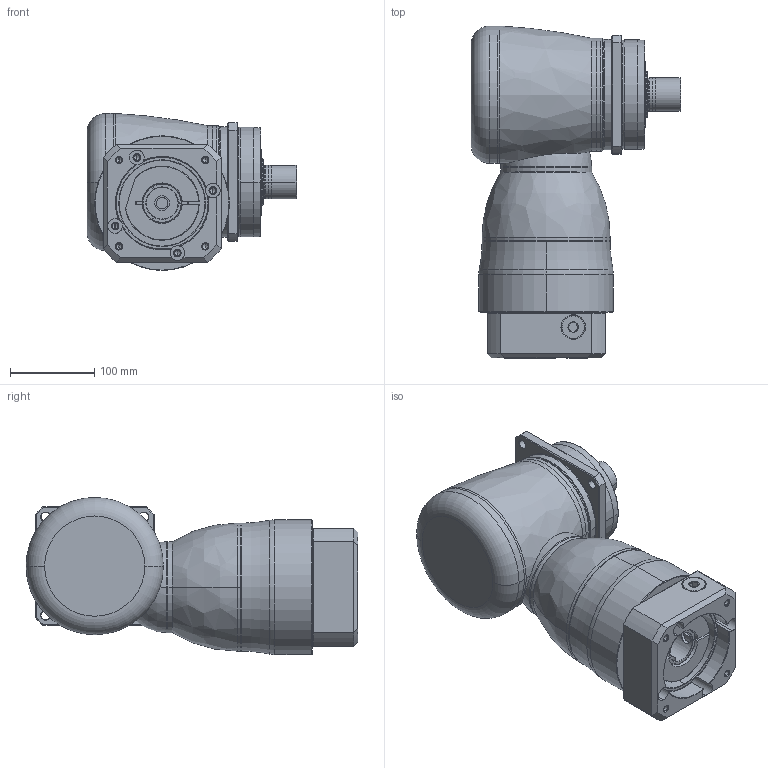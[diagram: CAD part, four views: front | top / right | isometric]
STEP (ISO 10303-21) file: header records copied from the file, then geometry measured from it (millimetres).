
FILE_DESCRIPTION((''),'2;1');
FILE_NAME('KF140_S3_2ST_38-P0409900101_ASM','2016-07-13T',('d01943'),(''),'PRO/ENGINEER BY PARAMETRIC TECHNOLOGY CORPORATION, 2008410','PRO/ENGINEER BY PARAMETRIC TECHNOLOGY CORPORATION, 2008410','');
FILE_SCHEMA(('CONFIG_CONTROL_DESIGN'));
Length unit declared in the file: millimetre
Products named in the file (11): P1008500002; P1804500001; P0915502001; P1315500001; P1007500001; P1317500501; P0409900101; P0503900012; P0912405001; 21711422019; KF140_S3_2ST_38-P0409900101_ASM
Assembly tree (10 placements, depth 2):
  KF140_S3_2ST_38-P0409900101_ASM
    P1008500002
    P1804500001
    P0915502001
    P1315500001
    P1007500001
    P1317500501
    P0409900101
    P0503900012
    P0912405001
    21711422019
Bounding box: 249 x 394 x 186.5 mm (x, y, z)
Volume: 6874875.1 mm3; surface area: 564658.9 mm2
Topology: 11 solids, 11 shells, 476 faces, 1083 edges, 644 vertices
Faces by surface type: cylinder 160, cone 132, plane 99, torus 64, bspline 19, sphere 2
Entity records: 18421 total; most frequent: CARTESIAN_POINT 7464, DIRECTION 2421, ORIENTED_EDGE 2126, EDGE_CURVE 1063, AXIS2_PLACEMENT_3D 1026, VERTEX_POINT 644, CIRCLE 548, EDGE_LOOP 543
